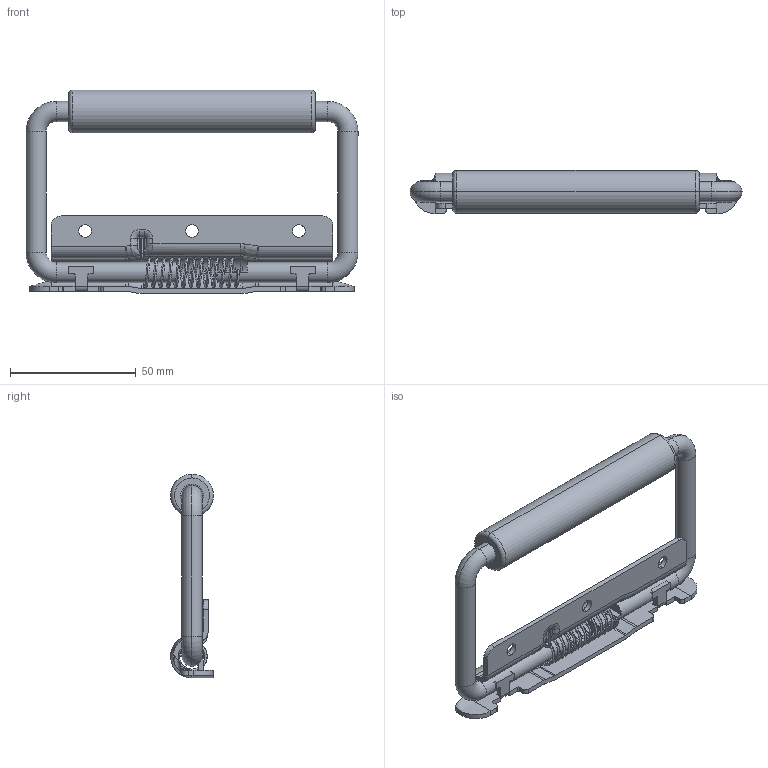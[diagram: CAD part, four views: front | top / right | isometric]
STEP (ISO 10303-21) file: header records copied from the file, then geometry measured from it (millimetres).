
FILE_DESCRIPTION (( 'STEP AP203' ), '1' );
FILE_NAME ('SK4-023.STEP', '2018-11-02T05:16:40', ( 'admin' ), ( 'Microsoft' ), 'SwSTEP 2.0', 'SolidWorks 2015', '' );
FILE_SCHEMA (( 'CONFIG_CONTROL_DESIGN' ));
Length unit declared in the file: millimetre
Products named in the file (5): SK4-023 參忒砎蝶; SK4-023 粟銅; SK4-023; SK4-023 參忒
Assembly tree (4 placements, depth 2):
  SK4-023
    SK4-023
    SK4-023 參忒
    SK4-023 參忒砎蝶
    SK4-023 粟銅
Bounding box: 132 x 17 x 81 mm (x, y, z)
Volume: 46080.2 mm3; surface area: 30446.8 mm2
Topology: 4 solids, 4 shells, 236 faces, 577 edges, 347 vertices
Faces by surface type: cylinder 87, plane 68, bspline 50, torus 25, sphere 6
Entity records: 17511 total; most frequent: CARTESIAN_POINT 11691, ORIENTED_EDGE 1150, DIRECTION 1078, EDGE_CURVE 575, AXIS2_PLACEMENT_3D 411, VERTEX_POINT 347, VECTOR 256, LINE 256
